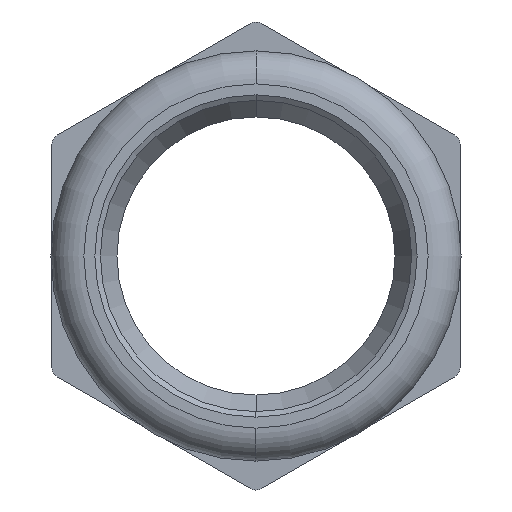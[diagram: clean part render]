
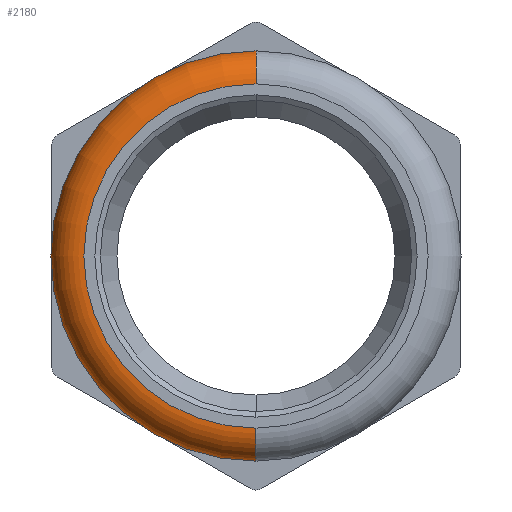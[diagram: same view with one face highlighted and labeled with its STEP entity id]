
A CAD part, left-side view. The second image highlights one B-rep face of the part: STEP entity #2180.
In plain terms, the highlighted toroidal (fillet/blend) face has major radius 15.6 mm and minor radius 3 mm.
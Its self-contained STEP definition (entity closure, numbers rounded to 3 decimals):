
#231 = DIRECTION ( 'NONE',  ( 0., 0., 1. ) ) ;
#635 = DIRECTION ( 'NONE',  ( 0., 0., -1. ) ) ;
#723 = VERTEX_POINT ( 'NONE', #5745 ) ;
#811 = CARTESIAN_POINT ( 'NONE',  ( -28.6, 0., 0. ) ) ;
#1006 = CIRCLE ( 'NONE', #8278, 3. ) ;
#1156 = ORIENTED_EDGE ( 'NONE', *, *, #6416, .F. ) ;
#1518 = VERTEX_POINT ( 'NONE', #5637 ) ;
#1593 = AXIS2_PLACEMENT_3D ( 'NONE', #3450, #7537, #10155 ) ;
#1626 = CARTESIAN_POINT ( 'NONE',  ( -31., 0., 15.6 ) ) ;
#2007 = DIRECTION ( 'NONE',  ( 0., 0., 1. ) ) ;
#2180 = ADVANCED_FACE ( 'NONE', ( #2573 ), #7733, .T. ) ;
#2573 = FACE_OUTER_BOUND ( 'NONE', #7343, .T. ) ;
#2655 = EDGE_CURVE ( 'NONE', #723, #1518, #7568, .T. ) ;
#3450 = CARTESIAN_POINT ( 'NONE',  ( -34., 0., 0. ) ) ;
#3464 = AXIS2_PLACEMENT_3D ( 'NONE', #811, #4260, #8663 ) ;
#3852 = CARTESIAN_POINT ( 'NONE',  ( -31., 0., 0. ) ) ;
#4260 = DIRECTION ( 'NONE',  ( -1., 0., 0. ) ) ;
#4262 = ORIENTED_EDGE ( 'NONE', *, *, #9616, .T. ) ;
#4906 = CIRCLE ( 'NONE', #8823, 3. ) ;
#5043 = EDGE_CURVE ( 'NONE', #723, #5854, #4906, .T. ) ;
#5435 = CARTESIAN_POINT ( 'NONE',  ( -34., 0., 15.6 ) ) ;
#5637 = CARTESIAN_POINT ( 'NONE',  ( -28.6, 0., -17.4 ) ) ;
#5645 = ORIENTED_EDGE ( 'NONE', *, *, #5043, .F. ) ;
#5745 = CARTESIAN_POINT ( 'NONE',  ( -28.6, 0., 17.4 ) ) ;
#5854 = VERTEX_POINT ( 'NONE', #5435 ) ;
#6416 = EDGE_CURVE ( 'NONE', #5854, #10383, #7303, .T. ) ;
#6507 = CARTESIAN_POINT ( 'NONE',  ( -34., 0., -15.6 ) ) ;
#7032 = AXIS2_PLACEMENT_3D ( 'NONE', #3852, #10653, #231 ) ;
#7303 = CIRCLE ( 'NONE', #1593, 15.6 ) ;
#7343 = EDGE_LOOP ( 'NONE', ( #8464, #4262, #1156, #5645 ) ) ;
#7537 = DIRECTION ( 'NONE',  ( -1., 0., 0. ) ) ;
#7568 = CIRCLE ( 'NONE', #3464, 17.4 ) ;
#7733 = TOROIDAL_SURFACE ( 'NONE', #7032, 15.6, 3. ) ;
#8278 = AXIS2_PLACEMENT_3D ( 'NONE', #10450, #10396, #2007 ) ;
#8464 = ORIENTED_EDGE ( 'NONE', *, *, #2655, .T. ) ;
#8663 = DIRECTION ( 'NONE',  ( 0., 0., 1. ) ) ;
#8823 = AXIS2_PLACEMENT_3D ( 'NONE', #1626, #11007, #635 ) ;
#9616 = EDGE_CURVE ( 'NONE', #1518, #10383, #1006, .T. ) ;
#10155 = DIRECTION ( 'NONE',  ( 0., 0., 1. ) ) ;
#10383 = VERTEX_POINT ( 'NONE', #6507 ) ;
#10396 = DIRECTION ( 'NONE',  ( 0., 1., 0. ) ) ;
#10450 = CARTESIAN_POINT ( 'NONE',  ( -31., 0., -15.6 ) ) ;
#10653 = DIRECTION ( 'NONE',  ( -1., 0., 0. ) ) ;
#11007 = DIRECTION ( 'NONE',  ( 0., -1., 0. ) ) ;
